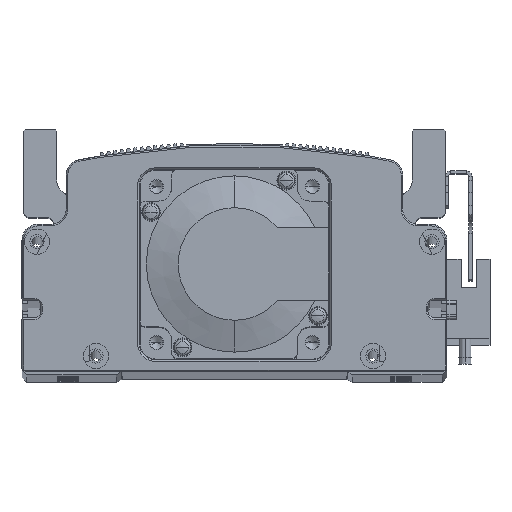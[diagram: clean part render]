
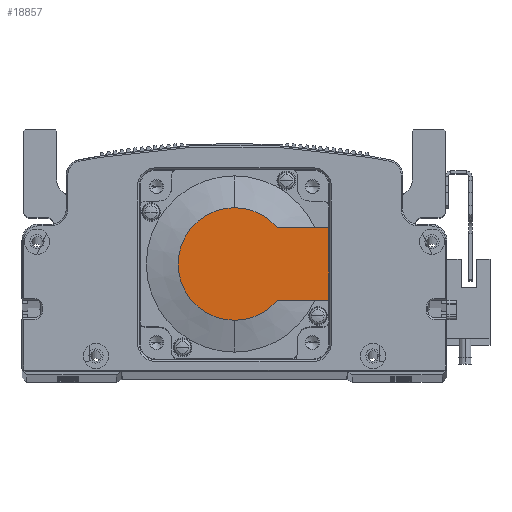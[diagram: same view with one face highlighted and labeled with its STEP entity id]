
A CAD part, top view. The second image highlights one B-rep face of the part: STEP entity #18857.
In plain terms, the highlighted planar face has unit normal (0, 0, 1) as drawn and (-1, 0, 0) by its records, which use the part's own axes.
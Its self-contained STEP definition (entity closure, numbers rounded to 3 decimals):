
#1265 = FACE_OUTER_BOUND ( 'NONE', #51621, .T. ) ;
#2058 = EDGE_CURVE ( 'NONE', #28553, #70706, #41992, .T. ) ;
#2804 = ORIENTED_EDGE ( 'NONE', *, *, #25192, .T. ) ;
#6993 = DIRECTION ( 'NONE',  ( 0., 0., -1. ) ) ;
#8131 = CIRCLE ( 'NONE', #16186, 17.881 ) ;
#8809 = DIRECTION ( 'NONE',  ( 0., -1., 0. ) ) ;
#12202 = ORIENTED_EDGE ( 'NONE', *, *, #33017, .F. ) ;
#12377 = EDGE_CURVE ( 'NONE', #37700, #30857, #8131, .T. ) ;
#13527 = DIRECTION ( 'NONE',  ( 0., 0., -1. ) ) ;
#14236 = ORIENTED_EDGE ( 'NONE', *, *, #69620, .T. ) ;
#14703 = CARTESIAN_POINT ( 'NONE',  ( -118.5, 0., 17.881 ) ) ;
#16186 = AXIS2_PLACEMENT_3D ( 'NONE', #60809, #16422, #22181 ) ;
#16422 = DIRECTION ( 'NONE',  ( -1., 0., 0. ) ) ;
#18857 = ADVANCED_FACE ( 'NONE', ( #1265 ), #33759, .T. ) ;
#20158 = AXIS2_PLACEMENT_3D ( 'NONE', #45572, #22906, #39350 ) ;
#21217 = AXIS2_PLACEMENT_3D ( 'NONE', #50871, #40042, #6993 ) ;
#22181 = DIRECTION ( 'NONE',  ( 0., 0., -1. ) ) ;
#22652 = CARTESIAN_POINT ( 'NONE',  ( -118.5, 13.735, 11.45 ) ) ;
#22906 = DIRECTION ( 'NONE',  ( -1., 0., 0. ) ) ;
#24600 = CARTESIAN_POINT ( 'NONE',  ( -118.5, 0., 0. ) ) ;
#25192 = EDGE_CURVE ( 'NONE', #52524, #49033, #66233, .T. ) ;
#26626 = VECTOR ( 'NONE', #68559, 1000. ) ;
#27020 = LINE ( 'NONE', #52439, #27865 ) ;
#27865 = VECTOR ( 'NONE', #8809, 1000. ) ;
#28429 = LINE ( 'NONE', #35725, #26626 ) ;
#28553 = VERTEX_POINT ( 'NONE', #40513 ) ;
#30857 = VERTEX_POINT ( 'NONE', #69987 ) ;
#31798 = AXIS2_PLACEMENT_3D ( 'NONE', #24600, #40329, #13527 ) ;
#32451 = CIRCLE ( 'NONE', #21217, 17.881 ) ;
#33017 = EDGE_CURVE ( 'NONE', #70706, #49033, #28429, .T. ) ;
#33759 = PLANE ( 'NONE',  #20158 ) ;
#35725 = CARTESIAN_POINT ( 'NONE',  ( -118.5, 0., 11.45 ) ) ;
#37700 = VERTEX_POINT ( 'NONE', #59742 ) ;
#39350 = DIRECTION ( 'NONE',  ( 0., 0., 1. ) ) ;
#40042 = DIRECTION ( 'NONE',  ( -1., 0., 0. ) ) ;
#40329 = DIRECTION ( 'NONE',  ( -1., 0., 0. ) ) ;
#40513 = CARTESIAN_POINT ( 'NONE',  ( -118.5, 30., -11.45 ) ) ;
#40563 = ORIENTED_EDGE ( 'NONE', *, *, #12377, .T. ) ;
#41699 = CARTESIAN_POINT ( 'NONE',  ( -118.5, 30., 25. ) ) ;
#41992 = LINE ( 'NONE', #41699, #54879 ) ;
#42333 = ORIENTED_EDGE ( 'NONE', *, *, #64322, .T. ) ;
#43612 = ORIENTED_EDGE ( 'NONE', *, *, #2058, .F. ) ;
#45572 = CARTESIAN_POINT ( 'NONE',  ( -118.5, -8.941, 0. ) ) ;
#49033 = VERTEX_POINT ( 'NONE', #22652 ) ;
#50871 = CARTESIAN_POINT ( 'NONE',  ( -118.5, 0., 0. ) ) ;
#51621 = EDGE_LOOP ( 'NONE', ( #42333, #40563, #14236, #2804, #12202, #43612 ) ) ;
#52439 = CARTESIAN_POINT ( 'NONE',  ( -118.5, -8.941, -11.45 ) ) ;
#52524 = VERTEX_POINT ( 'NONE', #14703 ) ;
#54879 = VECTOR ( 'NONE', #58067, 1000. ) ;
#58067 = DIRECTION ( 'NONE',  ( 0., 0., 1. ) ) ;
#59742 = CARTESIAN_POINT ( 'NONE',  ( -118.5, 13.735, -11.45 ) ) ;
#60809 = CARTESIAN_POINT ( 'NONE',  ( -118.5, 0., 0. ) ) ;
#64322 = EDGE_CURVE ( 'NONE', #28553, #37700, #27020, .T. ) ;
#65273 = CARTESIAN_POINT ( 'NONE',  ( -118.5, 30., 11.45 ) ) ;
#66233 = CIRCLE ( 'NONE', #31798, 17.881 ) ;
#68559 = DIRECTION ( 'NONE',  ( 0., -1., 0. ) ) ;
#69620 = EDGE_CURVE ( 'NONE', #30857, #52524, #32451, .T. ) ;
#69987 = CARTESIAN_POINT ( 'NONE',  ( -118.5, 0., -17.881 ) ) ;
#70706 = VERTEX_POINT ( 'NONE', #65273 ) ;
